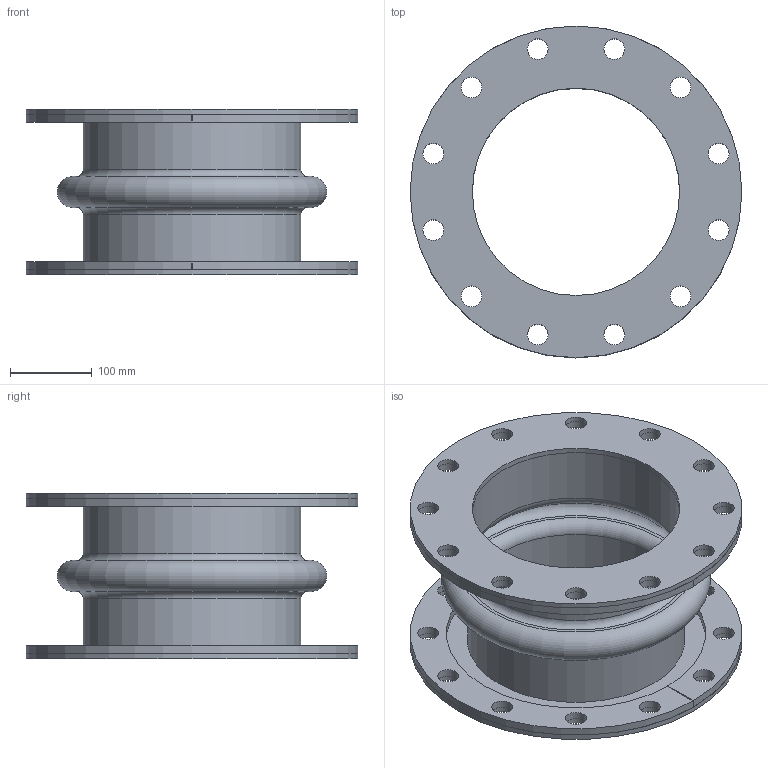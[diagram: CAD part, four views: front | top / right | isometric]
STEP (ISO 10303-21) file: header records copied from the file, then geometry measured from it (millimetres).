
FILE_DESCRIPTION(/* description */ (''),/* implementation_level */ '2;1');
FILE_NAME(/* name */ '10x8.stp',/* time_stamp */ '2026-07-21T16:15:18-05:00',/* author */ ('linda'),/* organization */ (''),/* preprocessor_version */ 'ST-DEVELOPER v20.1',/* originating_system */ 'Autodesk Inventor 2026',/* authorisation */ '');
FILE_SCHEMA (('AUTOMOTIVE_DESIGN { 1 0 10303 214 3 1 1 }'));
Length unit declared in the file: inch
Products named in the file (1): Part16
Bounding box: 406.4 x 406.4 x 203.2 mm (x, y, z)
Volume: 3031406.7 mm3; surface area: 959001.6 mm2
Topology: 5 solids, 5 shells, 94 faces, 234 edges, 156 vertices
Faces by surface type: cylinder 64, plane 24, torus 6
Full cylindrical faces by diameter (mm): 25.4 x48, 254 x4, 266.7 x2, 406.4 x2
Entity records: 3233 total; most frequent: DIRECTION 570, CARTESIAN_POINT 485, ORIENTED_EDGE 468, AXIS2_PLACEMENT_3D 241, EDGE_CURVE 234, EDGE_LOOP 198, VERTEX_POINT 156, CIRCLE 146
